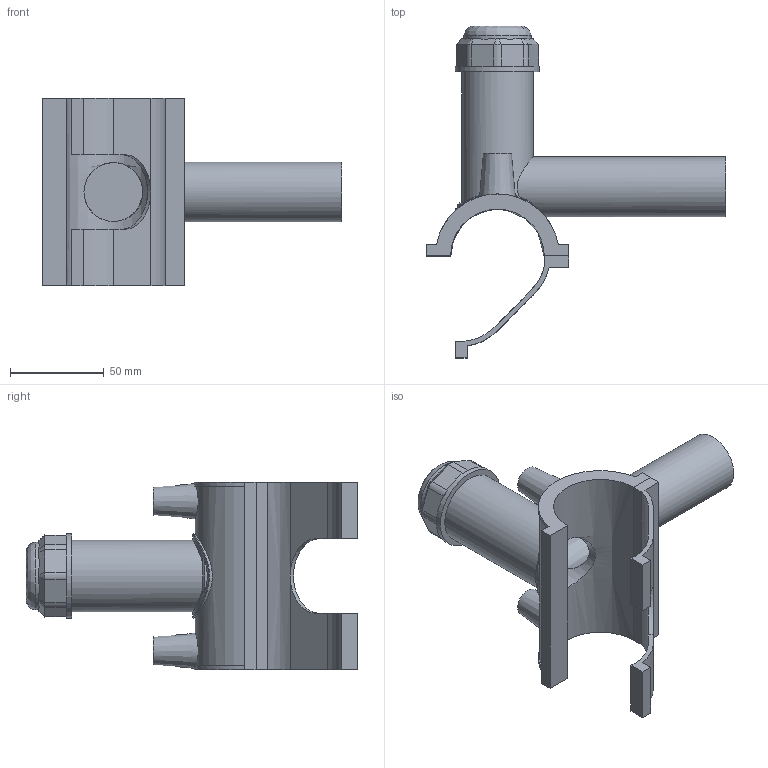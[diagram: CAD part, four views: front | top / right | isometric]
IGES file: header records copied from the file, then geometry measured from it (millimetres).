
Global section: file name: 496304050032.ipt; native system: Autodesk Inventor 2015; preprocessor: unknown; author: KIM; date: 20190124.130617; units: millimetre
Bounding box: 160 x 177.37 x 100 mm (x, y, z)
Volume: 185956.6 mm3; surface area: 79468.6 mm2
Topology: 2 solids, 2 shells, 111 faces, 286 edges, 187 vertices
Faces by surface type: plane 66, cylinder 23, cone 11, revolution 10, bspline 1
Full cylindrical faces by diameter (mm): 4 x2, 32 x1, 36 x1, 38.25 x1, 45 x1
